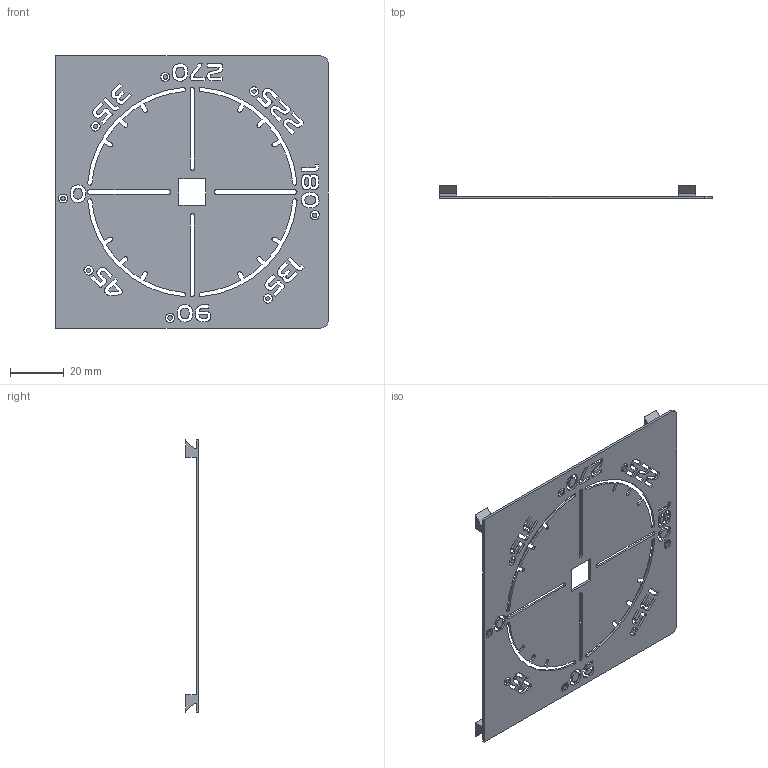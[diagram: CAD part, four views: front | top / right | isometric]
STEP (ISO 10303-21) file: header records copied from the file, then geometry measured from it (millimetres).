
FILE_DESCRIPTION (( 'STEP AP214' ), '1' );
FILE_NAME ('1 - Top Face Left (Degrees).STEP', '2022-11-25T05:52:29', ( '' ), ( '' ), 'SwSTEP 2.0', 'SolidWorks 2021', '' );
FILE_SCHEMA (( 'AUTOMOTIVE_DESIGN' ));
Length unit declared in the file: inch
Products named in the file (1): 1 - Top Face Left (Degrees)
Bounding box: 101.35 x 4.76 x 101.09 mm (x, y, z)
Volume: 7664.8 mm3; surface area: 20207.9 mm2
Topology: 17 solids, 17 shells, 527 faces, 1473 edges, 982 vertices
Faces by surface type: plane 263, bspline 202, cylinder 62
Entity records: 27347 total; most frequent: CARTESIAN_POINT 14689, ORIENTED_EDGE 2946, DIRECTION 1845, EDGE_CURVE 1473, VERTEX_POINT 982, VECTOR 945, LINE 945, EDGE_LOOP 603
